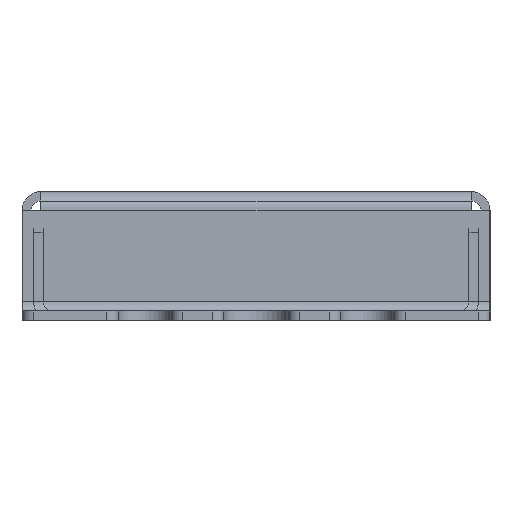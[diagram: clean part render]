
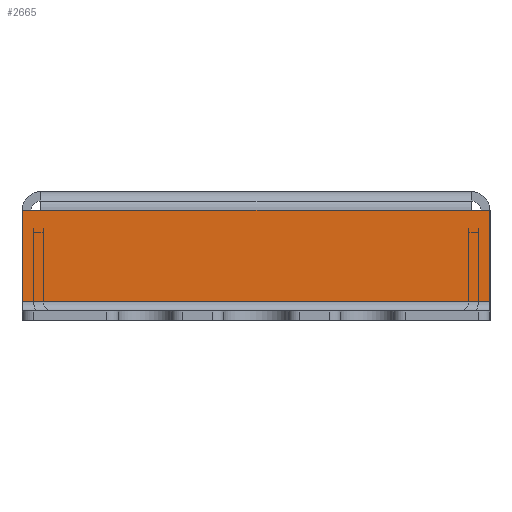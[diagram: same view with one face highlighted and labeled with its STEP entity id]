
A CAD part, left-side view. The second image highlights one B-rep face of the part: STEP entity #2665.
In plain terms, the highlighted planar face has unit normal (-1, 0, 0).
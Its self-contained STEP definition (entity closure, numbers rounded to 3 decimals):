
#48=LINE($,#3980,#296);
#49=LINE($,#3982,#297);
#50=LINE($,#3984,#298);
#51=LINE($,#3986,#299);
#52=LINE($,#3988,#300);
#53=LINE($,#3989,#301);
#296=VECTOR($,#3199,40.);
#297=VECTOR($,#3200,7.8);
#298=VECTOR($,#3201,1.6);
#299=VECTOR($,#3202,36.8);
#300=VECTOR($,#3203,1.6);
#301=VECTOR($,#3204,7.8);
#530=PLANE($,#2848);
#679=FACE_OUTER_BOUND($,#842,.T.);
#842=EDGE_LOOP($,(#1800,#1801,#1802,#1803,#1804,#1805));
#1144=VERTEX_POINT($,#3978);
#1145=VERTEX_POINT($,#3979);
#1146=VERTEX_POINT($,#3981);
#1147=VERTEX_POINT($,#3983);
#1148=VERTEX_POINT($,#3985);
#1149=VERTEX_POINT($,#3987);
#1392=EDGE_CURVE($,#1144,#1145,#48,.T.);
#1393=EDGE_CURVE($,#1146,#1145,#49,.T.);
#1394=EDGE_CURVE($,#1146,#1147,#50,.T.);
#1395=EDGE_CURVE($,#1147,#1148,#51,.T.);
#1396=EDGE_CURVE($,#1148,#1149,#52,.T.);
#1397=EDGE_CURVE($,#1149,#1144,#53,.T.);
#1800=ORIENTED_EDGE($,*,*,#1392,.T.);
#1801=ORIENTED_EDGE($,*,*,#1393,.F.);
#1802=ORIENTED_EDGE($,*,*,#1394,.T.);
#1803=ORIENTED_EDGE($,*,*,#1395,.T.);
#1804=ORIENTED_EDGE($,*,*,#1396,.T.);
#1805=ORIENTED_EDGE($,*,*,#1397,.T.);
#2665=ADVANCED_FACE($,(#679),#530,.T.);
#2848=AXIS2_PLACEMENT_3D($,#3977,#3197,#3198);
#3197=DIRECTION('center_axis',(-1.,0.,0.));
#3198=DIRECTION('ref_axis',(0.,0.,
1.));
#3199=DIRECTION($,(0.,-1.,0.));
#3200=DIRECTION($,(0.,0.,-1.));
#3201=DIRECTION($,(0.,1.,0.));
#3202=DIRECTION($,(0.,1.,0.));
#3203=DIRECTION($,(0.,1.,0.));
#3204=DIRECTION($,(0.,0.,-1.));
#3977=CARTESIAN_POINT('Origin',(-80.,0.,0.105));
#3978=CARTESIAN_POINT('',(-80.,20.,-3.9));
#3979=CARTESIAN_POINT('',(-80.,-20.,-3.9));
#3980=CARTESIAN_POINT($,(-80.,10.,-3.9));
#3981=CARTESIAN_POINT('',(-80.,-20.,3.9));
#3982=CARTESIAN_POINT($,(-80.,-20.,7.519));
#3983=CARTESIAN_POINT('',(-80.,-18.4,3.9));
#3984=CARTESIAN_POINT($,(-80.,0.,3.9));
#3985=CARTESIAN_POINT('',(-80.,18.4,3.9));
#3986=CARTESIAN_POINT($,(-80.,0.,3.9));
#3987=CARTESIAN_POINT('',(-80.,20.,3.9));
#3988=CARTESIAN_POINT($,(-80.,0.,3.9));
#3989=CARTESIAN_POINT($,(-80.,20.,7.519));
